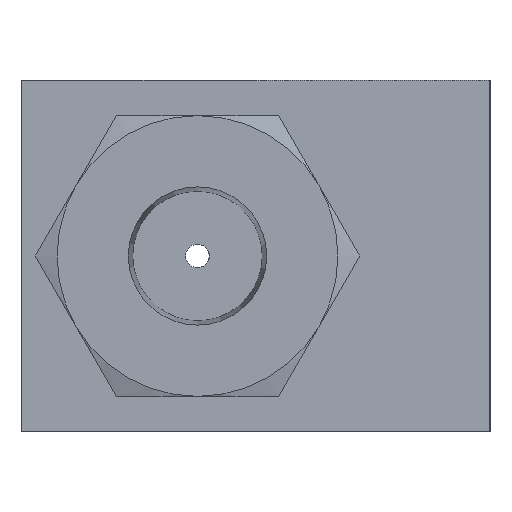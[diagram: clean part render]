
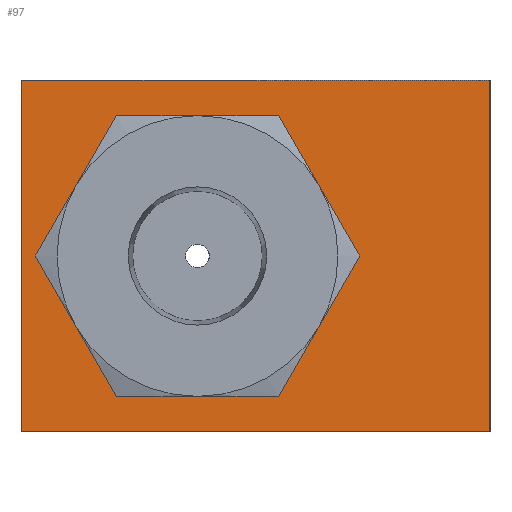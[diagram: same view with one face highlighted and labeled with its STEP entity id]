
A CAD part, left-side view. The second image highlights one B-rep face of the part: STEP entity #97.
In plain terms, the highlighted planar face has unit normal (-1, 0, 0).
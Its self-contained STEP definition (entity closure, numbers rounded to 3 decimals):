
#97=ADVANCED_FACE('',(#164,#165),#166,.F.);
#164=FACE_OUTER_BOUND('',#256,.T.);
#165=FACE_BOUND('',#257,.T.);
#166=PLANE('',#258);
#256=EDGE_LOOP('',(#450,#451,#452,#453));
#257=EDGE_LOOP('',(#454,#455,#456,#457,#458,#459));
#258=AXIS2_PLACEMENT_3D('',#460,#461,#462);
#450=ORIENTED_EDGE('',*,*,#591,.F.);
#451=ORIENTED_EDGE('',*,*,#570,.F.);
#452=ORIENTED_EDGE('',*,*,#601,.T.);
#453=ORIENTED_EDGE('',*,*,#603,.T.);
#454=ORIENTED_EDGE('',*,*,#598,.F.);
#455=ORIENTED_EDGE('',*,*,#576,.F.);
#456=ORIENTED_EDGE('',*,*,#599,.F.);
#457=ORIENTED_EDGE('',*,*,#587,.F.);
#458=ORIENTED_EDGE('',*,*,#564,.F.);
#459=ORIENTED_EDGE('',*,*,#553,.F.);
#460=CARTESIAN_POINT('',(0.,40.0,15.0));
#461=DIRECTION('',(1.0,0.0,0.0));
#462=DIRECTION('',(0.0,1.0,0.0));
#553=EDGE_CURVE('',#624,#629,#631,.T.);
#564=EDGE_CURVE('',#629,#644,#649,.T.);
#570=EDGE_CURVE('',#659,#661,#662,.T.);
#576=EDGE_CURVE('',#671,#669,#673,.T.);
#587=EDGE_CURVE('',#644,#685,#690,.T.);
#591=EDGE_CURVE('',#661,#693,#697,.T.);
#598=EDGE_CURVE('',#669,#624,#708,.T.);
#599=EDGE_CURVE('',#685,#671,#709,.T.);
#601=EDGE_CURVE('',#659,#711,#713,.T.);
#603=EDGE_CURVE('',#711,#693,#715,.T.);
#624=VERTEX_POINT('',#755);
#629=VERTEX_POINT('',#769);
#631=CIRCLE('',#775,12.0);
#644=VERTEX_POINT('',#809);
#649=CIRCLE('',#823,12.0);
#659=VERTEX_POINT('',#833);
#661=VERTEX_POINT('',#836);
#662=LINE('',#837,#838);
#669=VERTEX_POINT('',#847);
#671=VERTEX_POINT('',#853);
#673=CIRCLE('',#859,12.0);
#685=VERTEX_POINT('',#892);
#690=CIRCLE('',#906,12.0);
#693=VERTEX_POINT('',#909);
#697=LINE('',#915,#916);
#708=CIRCLE('',#935,12.0);
#709=CIRCLE('',#936,12.0);
#711=VERTEX_POINT('',#938);
#713=LINE('',#941,#942);
#715=LINE('',#945,#946);
#755=CARTESIAN_POINT('',(0.,35.392,6.0));
#769=CARTESIAN_POINT('',(0.,35.392,-6.0));
#775=AXIS2_PLACEMENT_3D('',#969,#970,#971);
#809=CARTESIAN_POINT('',(0.,25.0,-12.0));
#823=AXIS2_PLACEMENT_3D('',#977,#978,#979);
#833=CARTESIAN_POINT('',(0.,40.0,15.0));
#836=CARTESIAN_POINT('',(0.,0.0,15.0));
#837=CARTESIAN_POINT('',(0.,40.0,15.0));
#838=VECTOR('',#993,1.0);
#847=CARTESIAN_POINT('',(0.,25.0,12.0));
#853=CARTESIAN_POINT('',(0.,14.608,6.0));
#859=AXIS2_PLACEMENT_3D('',#999,#1000,#1001);
#892=CARTESIAN_POINT('',(0.,14.608,-6.0));
#906=AXIS2_PLACEMENT_3D('',#1007,#1008,#1009);
#909=CARTESIAN_POINT('',(0.,0.0,-15.0));
#915=CARTESIAN_POINT('',(0.,0.0,15.0));
#916=VECTOR('',#1015,1.0);
#935=AXIS2_PLACEMENT_3D('',#1028,#1029,#1030);
#936=AXIS2_PLACEMENT_3D('',#1031,#1032,#1033);
#938=CARTESIAN_POINT('',(0.,40.0,-15.0));
#941=CARTESIAN_POINT('',(0.,40.0,15.0));
#942=VECTOR('',#1035,1.0);
#945=CARTESIAN_POINT('',(0.,40.0,-15.0));
#946=VECTOR('',#1037,1.0);
#969=CARTESIAN_POINT('',(0.,25.0,0.0));
#970=DIRECTION('',(-1.0,0.0,0.0));
#971=DIRECTION('',(0.0,0.0,-1.0));
#977=CARTESIAN_POINT('',(0.,25.0,0.0));
#978=DIRECTION('',(-1.0,0.0,0.0));
#979=DIRECTION('',(0.0,0.0,-1.0));
#993=DIRECTION('',(0.0,-1.0,0.0));
#999=CARTESIAN_POINT('',(0.,25.0,0.0));
#1000=DIRECTION('',(-1.0,0.0,0.0));
#1001=DIRECTION('',(0.0,0.0,-1.0));
#1007=CARTESIAN_POINT('',(0.,25.0,0.0));
#1008=DIRECTION('',(-1.0,0.0,0.0));
#1009=DIRECTION('',(0.0,0.0,-1.0));
#1015=DIRECTION('',(0.0,0.0,-1.0));
#1028=CARTESIAN_POINT('',(0.,25.0,0.0));
#1029=DIRECTION('',(-1.0,0.0,0.0));
#1030=DIRECTION('',(0.0,0.0,-1.0));
#1031=CARTESIAN_POINT('',(0.,25.0,0.0));
#1032=DIRECTION('',(-1.0,0.0,0.0));
#1033=DIRECTION('',(0.0,0.0,-1.0));
#1035=DIRECTION('',(0.0,0.0,-1.0));
#1037=DIRECTION('',(0.0,-1.0,0.0));
